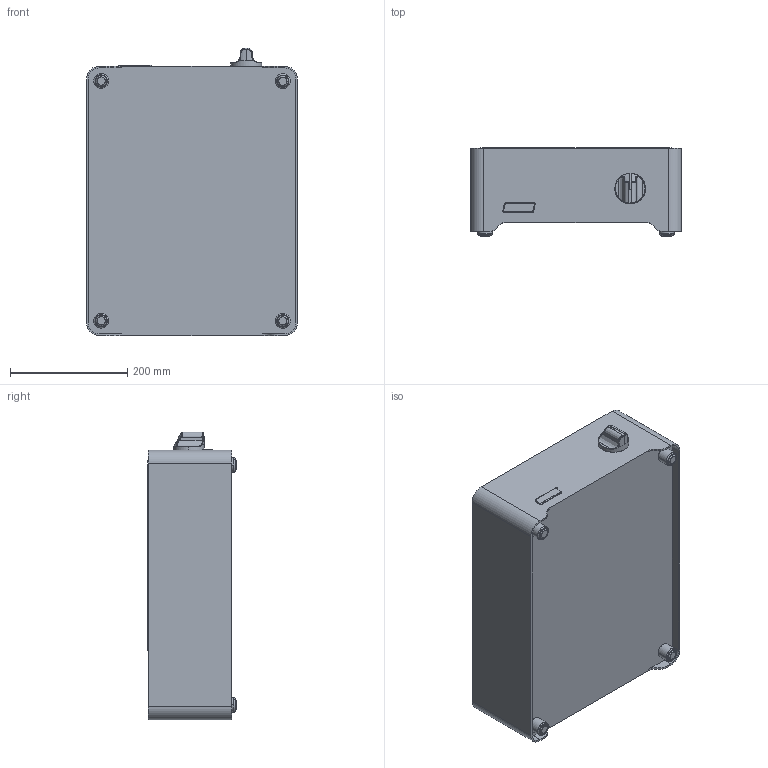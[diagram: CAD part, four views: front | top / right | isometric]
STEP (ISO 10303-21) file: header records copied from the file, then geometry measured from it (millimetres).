
FILE_DESCRIPTION (( 'STEP AP214' ), '1' );
FILE_NAME ('SINAwok.STEP', '2015-08-05T09:31:43', ( 'T. Weiss' ), ( 'Menusystem AG' ), 'SwSTEP 2.0', 'SolidWorks 2012', '' );
FILE_SCHEMA (( 'AUTOMOTIVE_DESIGN' ));
Length unit declared in the file: millimetre
Products named in the file (1): SINAwok
Bounding box: 360 x 151.1 x 490.6 mm (x, y, z)
Volume: 17991382.2 mm3; surface area: 656247 mm2
Topology: 2 solids, 8 shells, 306 faces, 778 edges, 513 vertices
Faces by surface type: bspline 103, cylinder 96, plane 92, cone 15
Entity records: 45000 total; most frequent: CARTESIAN_POINT 38536, ORIENTED_EDGE 1552, DIRECTION 964, EDGE_CURVE 776, VERTEX_POINT 513, B_SPLINE_CURVE_WITH_KNOTS 373, AXIS2_PLACEMENT_3D 373, EDGE_LOOP 335
